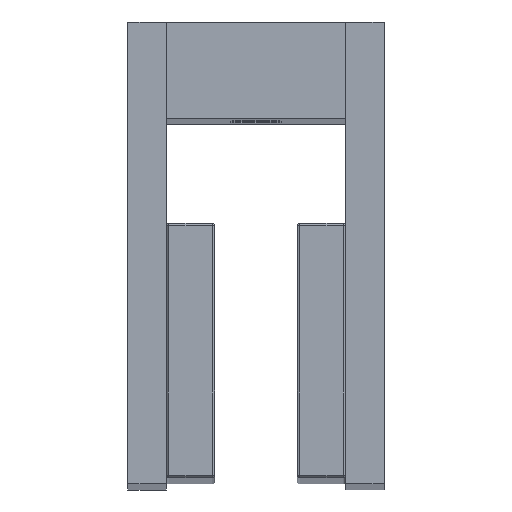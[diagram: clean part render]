
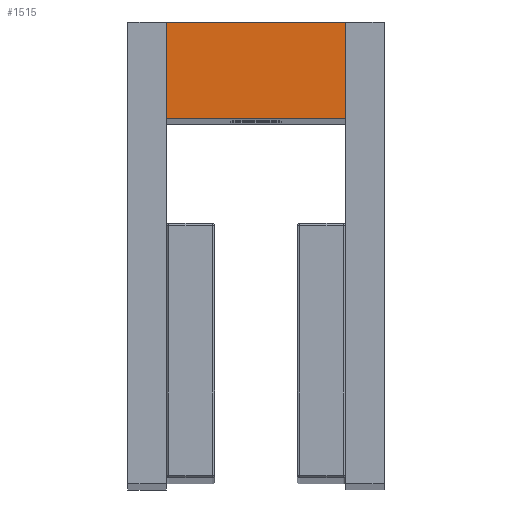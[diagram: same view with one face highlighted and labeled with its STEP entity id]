
A CAD part, top view. The second image highlights one B-rep face of the part: STEP entity #1515.
In plain terms, the highlighted planar face has unit normal (0, 0, 1).
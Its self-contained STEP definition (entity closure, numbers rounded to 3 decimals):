
#203 = DIRECTION ( 'NONE',  ( 0., 0., -1. ) ) ;
#988 = LINE ( 'NONE', #16497, #14691 ) ;
#1515 = ADVANCED_FACE ( 'NONE', ( #17030 ), #7128, .F. ) ;
#2322 = ORIENTED_EDGE ( 'NONE', *, *, #20172, .T. ) ;
#2482 = CARTESIAN_POINT ( 'NONE',  ( -7.4, 3.965, 0. ) ) ;
#3987 = DIRECTION ( 'NONE',  ( 1., 0., 0. ) ) ;
#5297 = ORIENTED_EDGE ( 'NONE', *, *, #16034, .T. ) ;
#5337 = EDGE_LOOP ( 'NONE', ( #9861, #5297, #2322, #9353 ) ) ;
#5881 = VERTEX_POINT ( 'NONE', #8379 ) ;
#6210 = DIRECTION ( 'NONE',  ( 0., -1., 0. ) ) ;
#6355 = VERTEX_POINT ( 'NONE', #10538 ) ;
#6397 = LINE ( 'NONE', #10828, #16054 ) ;
#7128 = PLANE ( 'NONE',  #18798 ) ;
#7680 = LINE ( 'NONE', #9529, #12264 ) ;
#7838 = LINE ( 'NONE', #2482, #21031 ) ;
#8379 = CARTESIAN_POINT ( 'NONE',  ( 7.4, 3.965, 0. ) ) ;
#9085 = EDGE_CURVE ( 'NONE', #5881, #22322, #7838, .T. ) ;
#9353 = ORIENTED_EDGE ( 'NONE', *, *, #9085, .T. ) ;
#9529 = CARTESIAN_POINT ( 'NONE',  ( 7.4, 3.965, 0. ) ) ;
#9861 = ORIENTED_EDGE ( 'NONE', *, *, #16615, .T. ) ;
#10021 = CARTESIAN_POINT ( 'NONE',  ( 7.4, -3.965, 0. ) ) ;
#10538 = CARTESIAN_POINT ( 'NONE',  ( -7.4, -3.965, 0. ) ) ;
#10828 = CARTESIAN_POINT ( 'NONE',  ( 7.4, -3.965, 0. ) ) ;
#11810 = VERTEX_POINT ( 'NONE', #10021 ) ;
#12264 = VECTOR ( 'NONE', #19862, 1000. ) ;
#14691 = VECTOR ( 'NONE', #6210, 1000. ) ;
#15687 = CARTESIAN_POINT ( 'NONE',  ( -7.4, 3.965, 0. ) ) ;
#16034 = EDGE_CURVE ( 'NONE', #6355, #11810, #6397, .T. ) ;
#16054 = VECTOR ( 'NONE', #3987, 1000. ) ;
#16497 = CARTESIAN_POINT ( 'NONE',  ( -7.4, -3.965, 0. ) ) ;
#16615 = EDGE_CURVE ( 'NONE', #22322, #6355, #988, .T. ) ;
#17030 = FACE_OUTER_BOUND ( 'NONE', #5337, .T. ) ;
#18798 = AXIS2_PLACEMENT_3D ( 'NONE', #15687, #203, #19180 ) ;
#19180 = DIRECTION ( 'NONE',  ( -1., 0., 0. ) ) ;
#19721 = DIRECTION ( 'NONE',  ( -1., 0., 0. ) ) ;
#19862 = DIRECTION ( 'NONE',  ( 0., 1., 0. ) ) ;
#20172 = EDGE_CURVE ( 'NONE', #11810, #5881, #7680, .T. ) ;
#21031 = VECTOR ( 'NONE', #19721, 1000. ) ;
#22095 = CARTESIAN_POINT ( 'NONE',  ( -7.4, 3.965, 0. ) ) ;
#22322 = VERTEX_POINT ( 'NONE', #22095 ) ;
